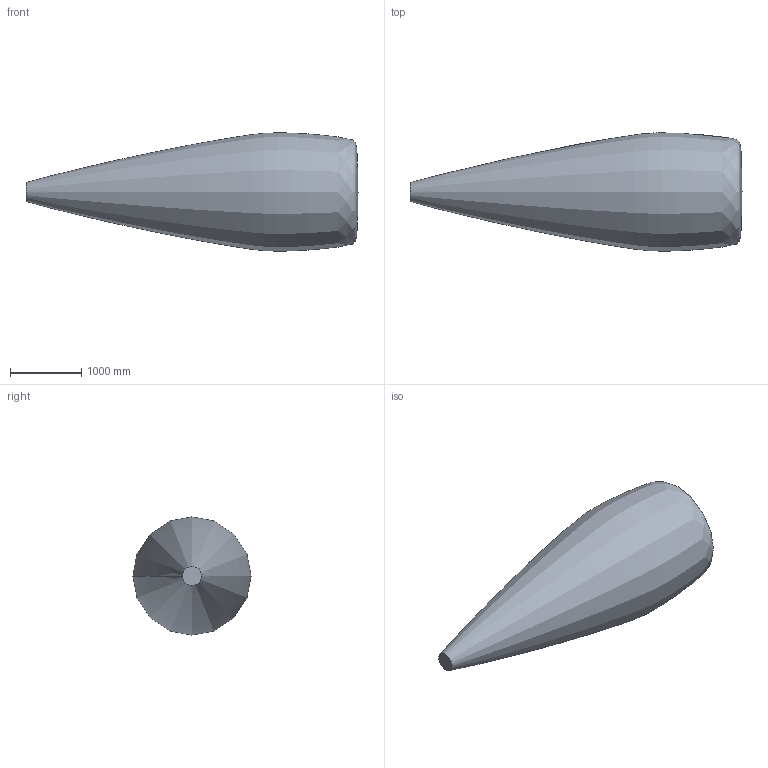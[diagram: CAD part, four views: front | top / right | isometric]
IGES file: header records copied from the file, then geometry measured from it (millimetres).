
Global section: file name: No Iges File Name specified; native system: AutoDesk Inventor R6.1; preprocessor: AutoDesk Inventor Iges Exporter R6.1; author: No Author specified; organization: No Organization specified; date: 20050811.082243; units: millimetre
Bounding box: 4670 x 1664.46 x 1664.65 mm (x, y, z)
Surface area: 19271366.1 mm2 (no closed solid volume)
Topology: 0 solids, 0 shells, 2 faces, 5 edges, 3 vertices
Faces by surface type: plane 1, bspline 1
